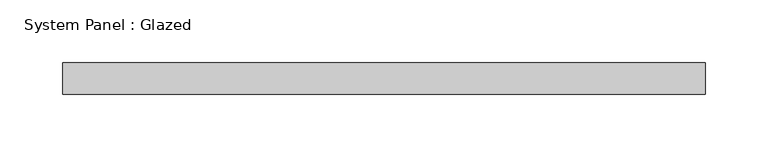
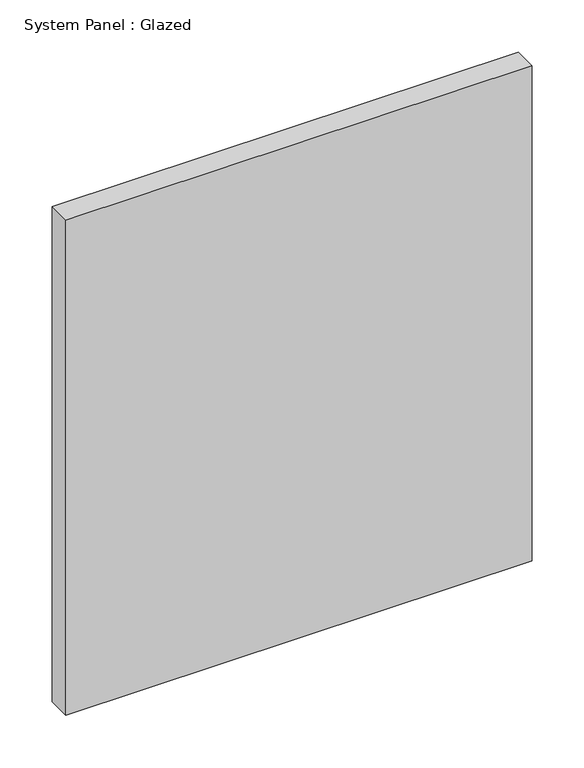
"""IFC4 building model written with IfcOpenShell, lengths in millimetres: plate geometry, System Panel : Glazed."""

from ifc_helpers import new_model, si_unit, origin, origin_with_axes, place, context, project, spatial, polyline, outline, extrude, source, transform, mapped, element, save


def system_panel_glazed_2dcc93e6(model_context):
    return source(origin(), model_context, "Body", "SweptSolid", [
        extrude(outline(polyline([(257.175, 19.05), (-257.175, 19.05), (-257.175, 44.45), (257.175, 44.45), (257.175, 19.05)])), origin_with_axes(), (0.0, 0.0, 1.0), 577.85),
    ])


if __name__ == "__main__":
    model = new_model("IFC4")
    model_context = context("Model", 3, world=origin())
    ifc_project = project(units=[si_unit("LENGTHUNIT", "METRE", prefix="MILLI")], contexts=[model_context])
    site = spatial("IfcSite", under=ifc_project)
    building = spatial("IfcBuilding", under=site)
    placement = place(None, origin())
    system_panel_glazed_shape = system_panel_glazed_2dcc93e6(model_context)
    element("IfcPlate", 1, ObjectType="System Panel : Glazed", at=placement, inside=building, context=model_context, shape_type="MappedRepresentation", body=[
        mapped(system_panel_glazed_shape, transform((0.0, 0.0, 0.0), x_axis=(1.0, 0.0, 0.0), y_axis=(0.0, 1.0, 0.0), z_axis=(0.0, 0.0, 1.0))),
    ])
    save(model, "model.ifc")
